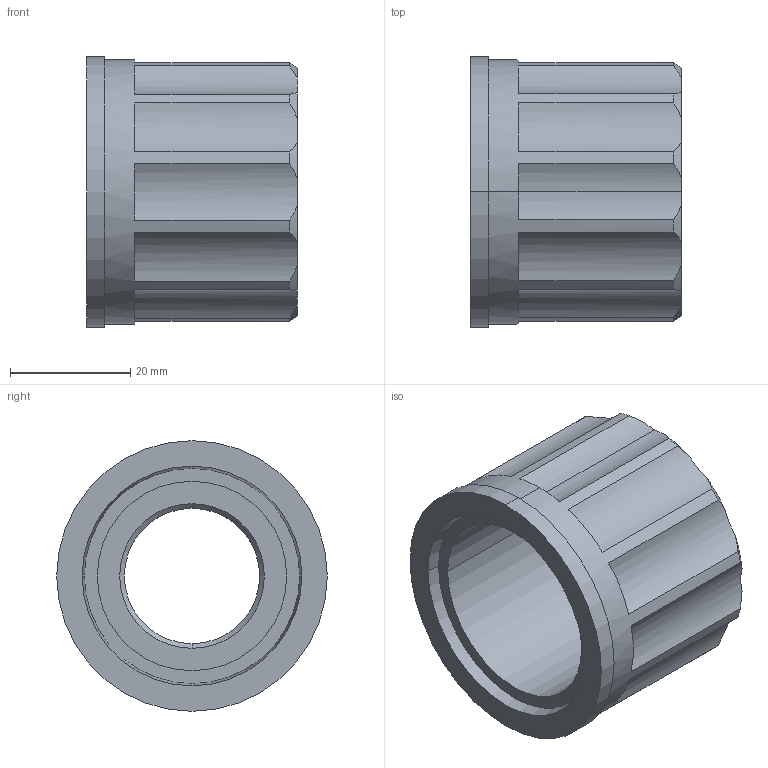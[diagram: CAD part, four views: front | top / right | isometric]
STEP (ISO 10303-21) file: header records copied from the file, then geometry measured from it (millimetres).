
FILE_DESCRIPTION (( 'STEP AP214' ), '1' );
FILE_NAME ('knurled_nut.STEP', '2015-10-06T13:33:12', ( '' ), ( '' ), 'SwSTEP 2.0', 'SolidWorks 2014', '' );
FILE_SCHEMA (( 'AUTOMOTIVE_DESIGN' ));
Length unit declared in the file: millimetre
Products named in the file (2): knurled_nut
Bounding box: 35 x 45 x 45 mm (x, y, z)
Volume: 24605.4 mm3; surface area: 10593 mm2
Topology: 1 solids, 1 shells, 176 faces, 473 edges, 314 vertices
Faces by surface type: plane 121, cylinder 21, cone 18, bspline 16
Entity records: 6386 total; most frequent: CARTESIAN_POINT 1965, ORIENTED_EDGE 946, DIRECTION 827, EDGE_CURVE 473, LINE 331, VECTOR 331, VERTEX_POINT 314, AXIS2_PLACEMENT_3D 248
